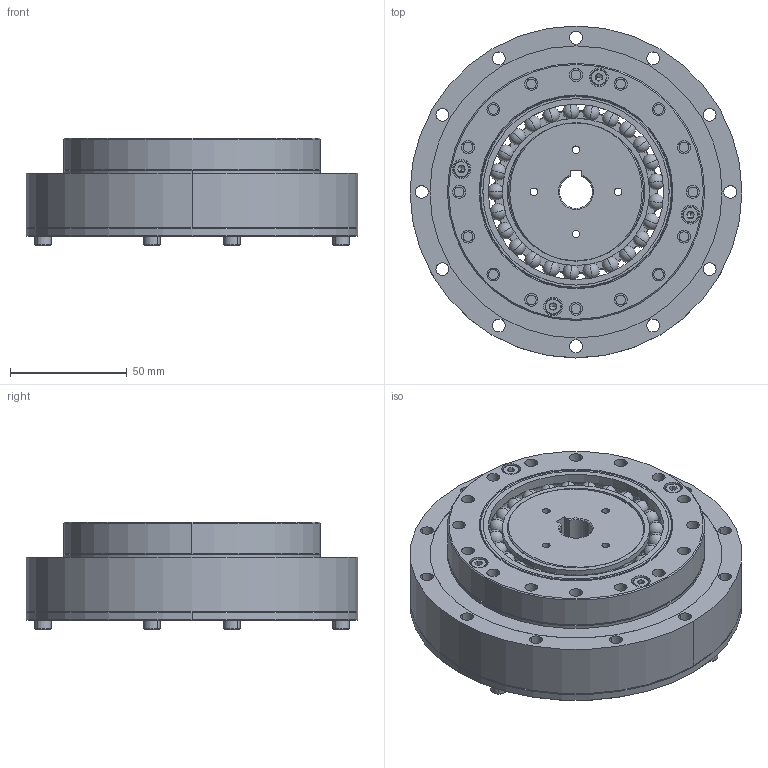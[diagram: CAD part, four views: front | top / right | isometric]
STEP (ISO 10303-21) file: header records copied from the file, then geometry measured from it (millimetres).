
FILE_DESCRIPTION (( 'STEP AP203' ), '1' );
FILE_NAME ('BHS-32-XXX-U-¢ñ.STEP', '2019-01-15T05:37:42', ( 'User' ), ( 'China' ), 'SwSTEP 2.0', 'SolidWorks 2015', '' );
FILE_SCHEMA (( 'CONFIG_CONTROL_DESIGN' ));
Length unit declared in the file: millimetre
Products named in the file (1): BHS-32-XXX-U-ｉ
Bounding box: 142 x 142 x 46 mm (x, y, z)
Surface area: 94650.6 mm2 (no closed solid volume)
Topology: 0 solids, 43 shells, 338 faces, 1019 edges, 676 vertices
Faces by surface type: cylinder 141, plane 79, cone 54, sphere 50, torus 10, bspline 4
Entity records: 12508 total; most frequent: CARTESIAN_POINT 3728, DIRECTION 2019, ORIENTED_EDGE 1508, EDGE_CURVE 878, AXIS2_PLACEMENT_3D 823, VERTEX_POINT 601, CIRCLE 488, EDGE_LOOP 454
